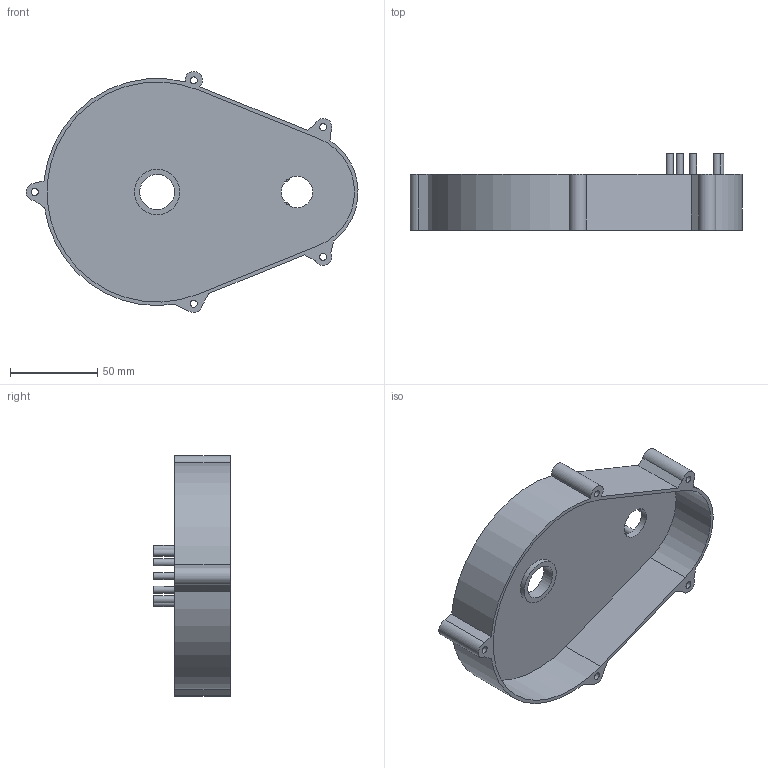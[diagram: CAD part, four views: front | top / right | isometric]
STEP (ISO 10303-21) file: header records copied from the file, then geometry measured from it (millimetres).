
FILE_DESCRIPTION(('STEP AP242'), '1');
FILE_NAME('扻豵鵨', '', ('UNSPECIFIED'), ('UNSPECIFIED'), 'C3D Converter', 'C3D Toolkit', '');
FILE_SCHEMA(('AP242_MANAGED_MODEL_BASED_3D_ENGINEERING_MIM_LF { 1 0 10303 442 1 1 4 }'));
Length unit declared in the file: millimetre
Bounding box: 189.98 x 44 x 137.84 mm (x, y, z)
Volume: 107887.9 mm3; surface area: 68746.7 mm2
Topology: 1 solids, 1 shells, 54 faces, 129 edges, 86 vertices
Faces by surface type: plane 27, cylinder 27
Full cylindrical faces by diameter (mm): 4 x14, 18 x1, 20 x1, 26 x1
Entity records: 1578 total; most frequent: DIRECTION 284, CARTESIAN_POINT 253, ORIENTED_EDGE 224, AXIS2_PLACEMENT_3D 117, EDGE_CURVE 112, EDGE_LOOP 94, VERTEX_POINT 86, FACE_BOUND 63
